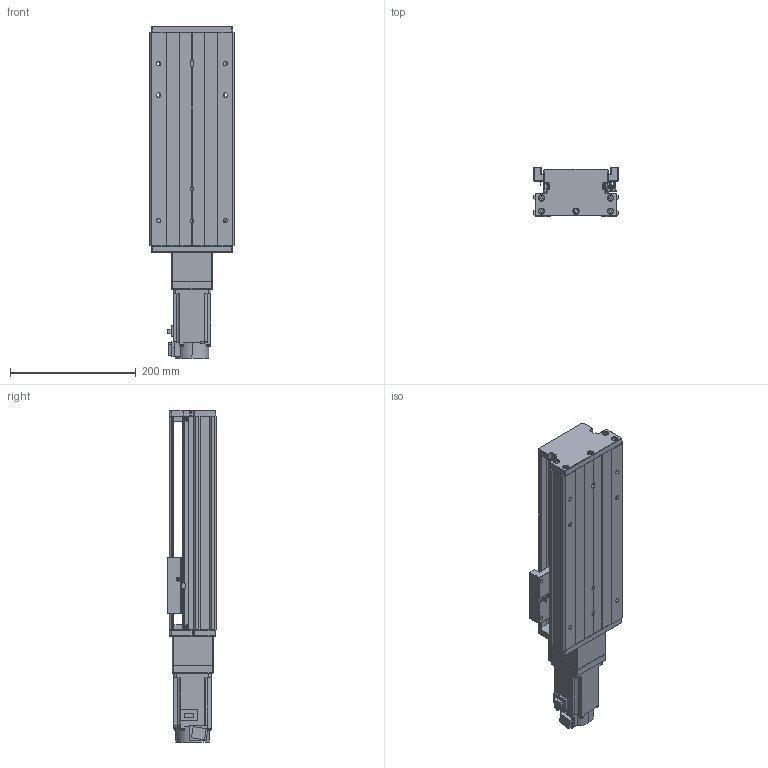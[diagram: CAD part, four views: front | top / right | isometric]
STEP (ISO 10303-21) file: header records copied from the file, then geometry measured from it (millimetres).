
FILE_DESCRIPTION (( 'STEP AP203' ), '1' );
FILE_NAME ('KTH130-200-BC-M40-C4.step', '2023-06-30T03:53:25', ( '微软用户' ), ( '微软中国' ), 'SwSTEP 2.0', 'SolidWorks 2020', '' );
FILE_SCHEMA (( 'CONFIG_CONTROL_DESIGN' ));
Length unit declared in the file: millimetre
Products named in the file (19): KTH130-200-BC-M40-C4; GBT70.1 M5℅16; す晦芛蹟隊 M3℅5; GBT 70.2-M3¡Á5_M3¡Á6; GBT 70.3-M3℅8; GTH14-001_200; CTHA60-017; CTHA86-006-1_M40; KTH130-002_KTH130-002; EE_SX911P_R; CTHA86-013; KTH130-004; CTHA60-016; CTHA86-027-1; KTH130-005; GBT 70.1-M3℅5; HG-KN43J-S100; GB1155-6X6; GBT77-2000 M3×3
Assembly tree (52 placements, depth 2):
  KTH130-200-BC-M40-C4
    GTH14-001_200
    KTH130-002_KTH130-002
    KTH130-004
    KTH130-005
    GB1155-6X6  x2
    GBT70.1 M5℅16  x10
    GBT 70.2-M3¡Á5_M3¡Á6  x4
    CTHA60-017  x3
    EE_SX911P_R  x3
    CTHA60-016  x2
    GBT 70.1-M3℅5  x6
    GBT77-2000 M3×3  x6
    す晦芛蹟隊 M3℅5  x2
    GBT 70.3-M3℅8  x6
    CTHA86-006-1_M40
    CTHA86-013
    CTHA86-027-1
    HG-KN43J-S100
Bounding box: 135 x 78 x 528.7 mm (x, y, z)
Volume: 2675546.4 mm3; surface area: 439879.2 mm2
Topology: 55 solids, 55 shells, 2162 faces, 5230 edges, 3262 vertices
Faces by surface type: plane 1190, cylinder 584, cone 280, torus 96, sphere 12
Entity records: 39266 total; most frequent: CARTESIAN_POINT 8376, DIRECTION 5805, ORIENTED_EDGE 5744, EDGE_CURVE 2872, AXIS2_PLACEMENT_3D 1965, LINE 1875, VECTOR 1875, VERTEX_POINT 1834
